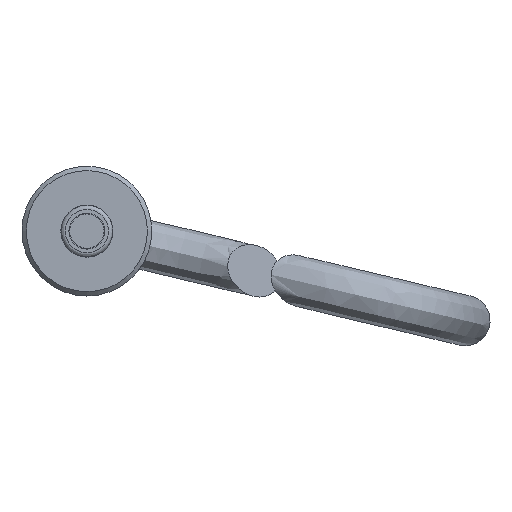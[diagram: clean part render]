
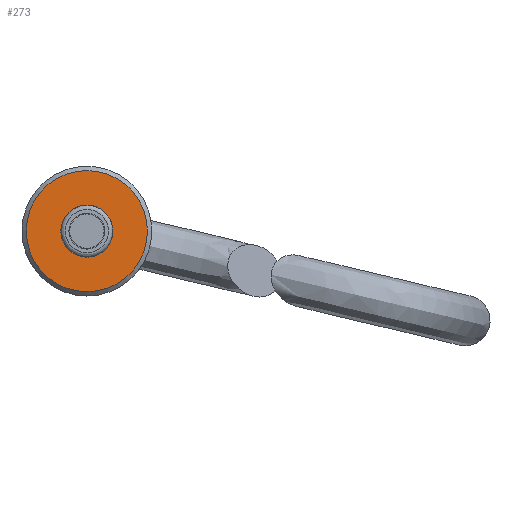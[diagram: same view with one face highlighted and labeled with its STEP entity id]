
A CAD part, left-side view. The second image highlights one B-rep face of the part: STEP entity #273.
In plain terms, the highlighted planar face has unit normal (-1, 0, 0).
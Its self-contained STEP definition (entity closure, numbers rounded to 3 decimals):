
#18 = EDGE_CURVE ( 'NONE', #119, #119, #777, .T. ) ;
#43 = EDGE_LOOP ( 'NONE', ( #992 ) ) ;
#82 = VERTEX_POINT ( 'NONE', #1093 ) ;
#106 = PLANE ( 'NONE',  #843 ) ;
#119 = VERTEX_POINT ( 'NONE', #549 ) ;
#194 = AXIS2_PLACEMENT_3D ( 'NONE', #1274, #503, #737 ) ;
#273 = ADVANCED_FACE ( 'NONE', ( #884, #434 ), #106, .F. ) ;
#289 = CIRCLE ( 'NONE', #444, 3. ) ;
#324 = DIRECTION ( 'NONE',  ( 0., 0., -1. ) ) ;
#434 = FACE_OUTER_BOUND ( 'NONE', #1387, .T. ) ;
#444 = AXIS2_PLACEMENT_3D ( 'NONE', #1203, #984, #451 ) ;
#451 = DIRECTION ( 'NONE',  ( 0., 0., -1. ) ) ;
#503 = DIRECTION ( 'NONE',  ( -1., 0., 0. ) ) ;
#549 = CARTESIAN_POINT ( 'NONE',  ( 0., 0., 7. ) ) ;
#737 = DIRECTION ( 'NONE',  ( 0., 0., 1. ) ) ;
#775 = CARTESIAN_POINT ( 'NONE',  ( 0., 3.05, 0. ) ) ;
#777 = CIRCLE ( 'NONE', #194, 7. ) ;
#843 = AXIS2_PLACEMENT_3D ( 'NONE', #775, #1083, #324 ) ;
#884 = FACE_BOUND ( 'NONE', #43, .T. ) ;
#926 = EDGE_CURVE ( 'NONE', #82, #82, #289, .T. ) ;
#984 = DIRECTION ( 'NONE',  ( -1., 0., 0. ) ) ;
#992 = ORIENTED_EDGE ( 'NONE', *, *, #926, .F. ) ;
#1083 = DIRECTION ( 'NONE',  ( 1., 0., 0. ) ) ;
#1093 = CARTESIAN_POINT ( 'NONE',  ( 0., 0., -3. ) ) ;
#1203 = CARTESIAN_POINT ( 'NONE',  ( 0., 0., 0. ) ) ;
#1274 = CARTESIAN_POINT ( 'NONE',  ( 0., 0., 0. ) ) ;
#1284 = ORIENTED_EDGE ( 'NONE', *, *, #18, .T. ) ;
#1387 = EDGE_LOOP ( 'NONE', ( #1284 ) ) ;
